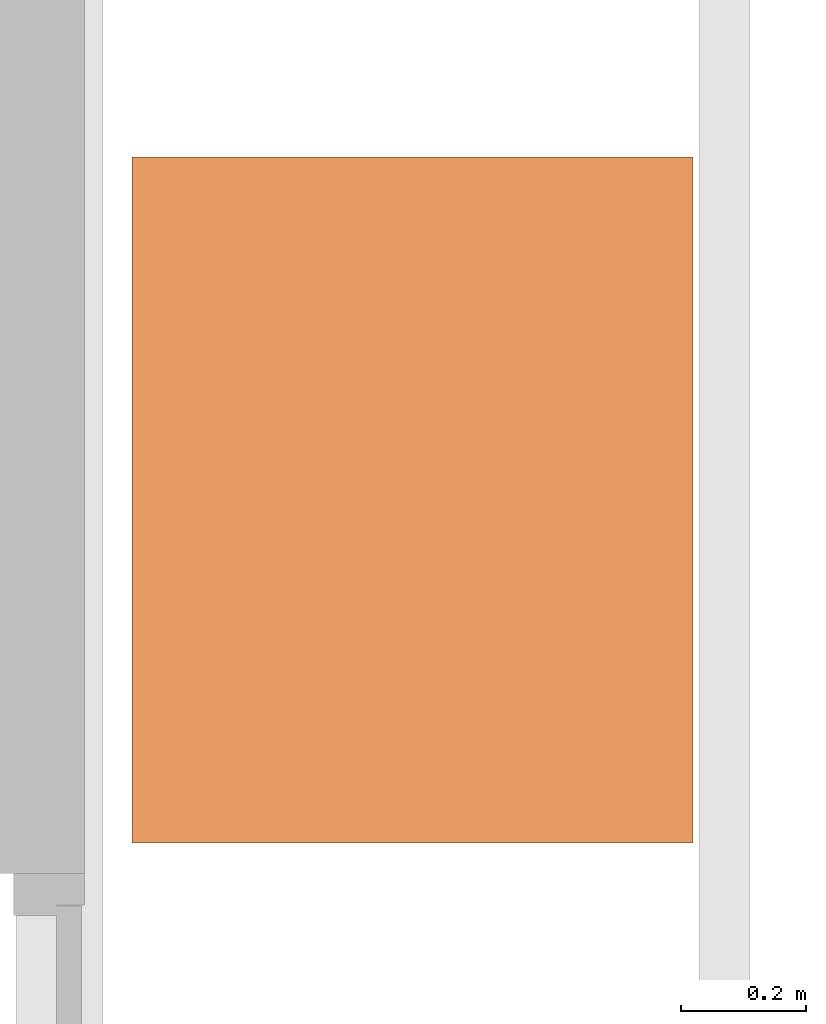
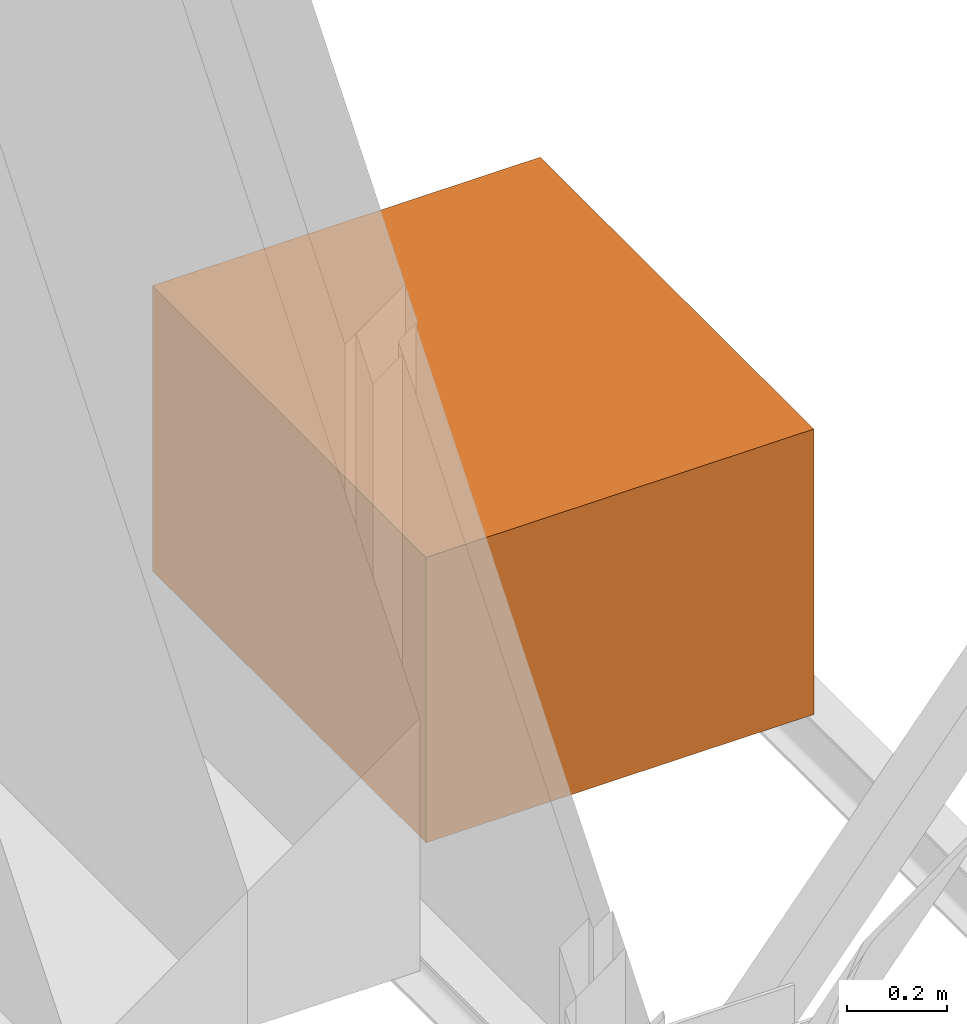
# One storey, part 8 of 8: 1 proxy.
"""IFC2X3 building model written with IfcOpenShell, lengths in millimetres."""

import ifcopenshell
import ifcopenshell.guid

model = None  # the IFC model being written
_history = None  # IfcOwnerHistory: only IFC2X3 demands one
_inside = {}  # id of a spatial element -> (the spatial element, [elements in it])
_under = {}  # id of a project, library or spatial element -> (it, [spatial elements below it])
_declared = {}  # id of a project -> (the project, [libraries it declares])
_typed = {}  # id of a type object -> (the type object, [elements of that type])
_made_of = {}  # id of a material, layer set ... -> (it, [elements and type objects made of it])


def new_model(schema):
    """Start an empty IFC model of exactly this schema.

    Asked for "IFC4X3", IfcOpenShell would pick the latest addendum, in which some entities
    have other attributes; the version numbers below select the first issue.
    IFC2X3 requires an IfcOwnerHistory on every rooted entity: one is made here for all.
    """
    global model, _history
    if schema == "IFC4X3":
        model = ifcopenshell.file(schema_version=(4, 3, 0, 0))
    else:
        model = ifcopenshell.file(schema=schema)
    _inside.clear()
    _under.clear()
    _declared.clear()
    _typed.clear()
    _made_of.clear()
    _history = None
    if model.schema == "IFC2X3":
        org = make("IfcOrganization", Name="unknown")
        user = make(
            "IfcPersonAndOrganization",
            ThePerson=make("IfcPerson", FamilyName="unknown"),
            TheOrganization=org,
        )
        app = make(
            "IfcApplication",
            ApplicationDeveloper=org,
            Version="unknown",
            ApplicationFullName="unknown",
            ApplicationIdentifier="unknown",
        )
        _history = make(
            "IfcOwnerHistory",
            OwningUser=user,
            OwningApplication=app,
            ChangeAction="ADDED",
            CreationDate=0,
        )
    return model


def make(cls, **values):
    """One entity of the class cls with the attributes given. An attribute that is None is left unset."""
    return model.create_entity(
        cls, **{name: value for name, value in values.items() if value is not None}
    )


def entity(cls, *values):
    """Any entity or typed value of the class cls, its attributes in the order of the schema. None: left unset."""
    e = model.create_entity(cls)
    for i, value in enumerate(values):
        if value is not None:
            e[i] = value
    return e


def rooted(cls, **values):
    """An entity with a GlobalId (a new one), such as an element, a storey or a relation."""
    return make(cls, GlobalId=ifcopenshell.guid.new(), OwnerHistory=_history, **values)


def si_unit(unit_type, name, prefix=None):
    """IfcSIUnit, for example si_unit("LENGTHUNIT", "METRE", prefix="MILLI")."""
    return make("IfcSIUnit", UnitType=unit_type, Prefix=prefix, Name=name)


def converted_unit(unit_type, name, factor, base, dimensions=None, offset=None):
    """IfcConversionBasedUnit, such as the inch: factor (a typed value) times the base unit."""
    return make(
        "IfcConversionBasedUnit"
        if offset is None
        else "IfcConversionBasedUnitWithOffset",
        ConversionOffset=offset,
        Dimensions=None
        if dimensions is None
        else entity("IfcDimensionalExponents", *dimensions),
        UnitType=unit_type,
        Name=name,
        ConversionFactor=make(
            "IfcMeasureWithUnit", ValueComponent=factor, UnitComponent=base
        ),
    )


def assignment(units):
    """IfcUnitAssignment: the units of a project."""
    return None if units is None else make("IfcUnitAssignment", Units=units)


def point(xyz):
    """IfcCartesianPoint."""
    return None if xyz is None else make("IfcCartesianPoint", Coordinates=xyz)


def direction(xyz):
    """IfcDirection."""
    return None if xyz is None else make("IfcDirection", DirectionRatios=xyz)


def frame(location, z_axis=None, x_axis=None):
    """IfcAxis2Placement3D, a coordinate frame: its origin and axes. An axis left out is left unset."""
    return make(
        "IfcAxis2Placement3D",
        Location=point(location),
        Axis=direction(z_axis),
        RefDirection=direction(x_axis),
    )


def frame_2d(location, x_axis=None):
    """IfcAxis2Placement2D, a coordinate frame in the plane: its origin and x axis."""
    return make(
        "IfcAxis2Placement2D", Location=point(location), RefDirection=direction(x_axis)
    )


def origin():
    """The frame at (0, 0, 0) with its axes left unset."""
    return frame((0.0, 0.0, 0.0))


def origin_2d_with_axis():
    """The frame at (0, 0) in the plane with the x axis (1, 0) written out."""
    return frame_2d((0.0, 0.0), x_axis=(1.0, 0.0))


def place(relative_to, where):
    """IfcLocalPlacement: puts the frame where relative to a parent placement (None: the world)."""
    return make(
        "IfcLocalPlacement", PlacementRelTo=relative_to, RelativePlacement=where
    )


def context(
    kind, dimensions, precision=None, world=None, true_north=None, identifier=None
):
    """IfcGeometricRepresentationContext, for example the 3D "Model" context."""
    return make(
        "IfcGeometricRepresentationContext",
        ContextIdentifier=identifier,
        ContextType=kind,
        CoordinateSpaceDimension=dimensions,
        Precision=precision,
        WorldCoordinateSystem=world,
        TrueNorth=true_north,
    )


def subcontext(parent, identifier, kind, view, scale=None):
    """IfcGeometricRepresentationSubContext, for example "Body" below "Model"."""
    return make(
        "IfcGeometricRepresentationSubContext",
        ContextIdentifier=identifier,
        ContextType=kind,
        ParentContext=parent,
        TargetScale=scale,
        TargetView=view,
    )


def project(units=None, contexts=None):
    """IfcProject with its units and contexts."""
    return rooted(
        "IfcProject",
        Name="project",
        RepresentationContexts=contexts,
        UnitsInContext=assignment(units),
    )


def spatial(cls, under=None, at=None, **own):
    """A site, building, storey or space (cls), placed at a placement, below another one or the project."""
    s = rooted(cls, ObjectPlacement=at, **own)
    if under is not None:
        _under.setdefault(under.id(), (under, []))[1].append(s)
    return s


def profile(cls, at=None, kind="AREA", **sizes):
    """A parametric profile (cls). Its sizes go by their IFC names, for example OverallWidth=200.0."""
    return make(cls, ProfileType=kind, Position=at, **sizes)


def rectangle(**sizes):
    """IfcRectangleProfileDef."""
    return profile("IfcRectangleProfileDef", **sizes)


def extrude(swept, where, along, depth):
    """IfcExtrudedAreaSolid: the profile swept, set in the frame where, extruded along a direction by depth."""
    return make(
        "IfcExtrudedAreaSolid",
        SweptArea=swept,
        Position=where,
        ExtrudedDirection=direction(along),
        Depth=depth,
    )


def shape(context_of_items, identifier, shape_type, items):
    """IfcShapeRepresentation: the items that make up one representation, for example the "Body"."""
    return make(
        "IfcShapeRepresentation",
        ContextOfItems=context_of_items,
        RepresentationIdentifier=identifier,
        RepresentationType=shape_type,
        Items=items,
    )


def source(mapping_origin, context_of_items, identifier, shape_type, items):
    """IfcRepresentationMap: a shape defined once, which mapped items show again and again."""
    return make(
        "IfcRepresentationMap",
        MappingOrigin=mapping_origin,
        MappedRepresentation=shape(context_of_items, identifier, shape_type, items),
    )


def transform(
    local_origin,
    x_axis=None,
    y_axis=None,
    z_axis=None,
    scale=None,
    scale2=None,
    scale3=None,
    uniform=True,
):
    """IfcCartesianTransformationOperator3D, or its non-uniform kind. x_axis, y_axis, z_axis: its Axis1, 2, 3."""
    if uniform:
        return make(
            "IfcCartesianTransformationOperator3D",
            Axis1=direction(x_axis),
            Axis2=direction(y_axis),
            LocalOrigin=point(local_origin),
            Scale=scale,
            Axis3=direction(z_axis),
        )
    return make(
        "IfcCartesianTransformationOperator3DnonUniform",
        Axis1=direction(x_axis),
        Axis2=direction(y_axis),
        LocalOrigin=point(local_origin),
        Scale=scale,
        Axis3=direction(z_axis),
        Scale2=scale2,
        Scale3=scale3,
    )


def mapped(mapping_source, mapping_target):
    """IfcMappedItem: shows the shape of a source again, moved by a transform."""
    return make(
        "IfcMappedItem", MappingSource=mapping_source, MappingTarget=mapping_target
    )


def material(Name=None, Category=None):
    """IfcMaterial."""
    return make("IfcMaterial", Name=Name, Category=Category)


def made_of(thing, what):
    """Note that an element or type object is made of a material, layer set ...; save() writes the relation."""
    if what is not None:
        _made_of.setdefault(what.id(), (what, []))[1].append(thing)
    return thing


def type_object(cls, material=None, **own):
    """A type object (cls), such as IfcWallType, which elements share."""
    return made_of(rooted(cls, **own), material)


def type_shapes(of_type, sources):
    """Give a type object the sources (RepresentationMaps) that its elements show as mapped items."""
    of_type.RepresentationMaps = sources


def element(
    cls,
    number,
    at=None,
    inside=None,
    cuts=None,
    type_object=None,
    material=None,
    context=None,
    identifier="Body",
    shape_type=None,
    held_by="IfcProductDefinitionShape",
    body=None,
    shapes=None,
    **own,
):
    """One element of the class cls, such as IfcWall. Its Tag is "e" and its number.

    at: its placement. inside: the storey or other place that contains it. cuts: it is an
    opening in that element (IfcRelVoidsElement). A single representation is given by context,
    identifier, shape_type and body (its items); several are given by shapes. held_by: the class
    of the entity that holds the representations. save() writes the other relations.
    """
    e = rooted(cls, Tag="e%d" % number, ObjectPlacement=at, **own)
    if body is not None:
        shapes = [shape(context, identifier, shape_type, body)]
    if shapes is not None:
        e.Representation = make(held_by, Representations=shapes)
    if inside is not None:
        _inside.setdefault(inside.id(), (inside, []))[1].append(e)
    if cuts is not None:
        rooted(
            "IfcRelVoidsElement", RelatingBuildingElement=cuts, RelatedOpeningElement=e
        )
    if type_object is not None:
        _typed.setdefault(type_object.id(), (type_object, []))[1].append(e)
    return made_of(e, material)


def aggregate(whole, parts):
    """IfcRelAggregates: a whole, such as a stair, and the parts it consists of."""
    return rooted("IfcRelAggregates", RelatingObject=whole, RelatedObjects=parts)


def save(model, path):
    """Write the relations noted so far, then the file.

    IfcRelAggregates (storeys below a building ...), IfcRelContainedInSpatialStructure (elements
    in a storey), IfcRelDefinesByType, IfcRelAssociatesMaterial and IfcRelDeclares: one each for
    every whole, place, type object, material and project.
    """
    for whole, parts in _under.values():
        aggregate(whole, parts)
    for where, things in _inside.values():
        rooted(
            "IfcRelContainedInSpatialStructure",
            RelatedElements=things,
            RelatingStructure=where,
        )
    for kind, things in _typed.values():
        rooted("IfcRelDefinesByType", RelatedObjects=things, RelatingType=kind)
    for what, things in _made_of.values():
        rooted("IfcRelAssociatesMaterial", RelatedObjects=things, RelatingMaterial=what)
    for by, libraries in _declared.values():
        rooted("IfcRelDeclares", RelatingContext=by, RelatedDefinitions=libraries)
    model.write(path)


model = new_model("IFC2X3")

# Units and contexts
model_context = context("Model", 3, precision=0.01, world=origin(), true_north=direction((6.123233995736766e-17, 1.0)))
body_context = subcontext(model_context, "Body", "Model", "MODEL_VIEW")
ifc_project = project(units=[si_unit("LENGTHUNIT", "METRE", prefix="MILLI"), si_unit("AREAUNIT", "SQUARE_METRE"), converted_unit("PLANEANGLEUNIT", "DEGREE", entity("IfcPlaneAngleMeasure", 0.017453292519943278), si_unit("PLANEANGLEUNIT", "RADIAN"), dimensions=[0, 0, 0, 0, 0, 0, 0])], contexts=[model_context])

# Site, building, storey
site_placement = place(None, origin())
site = spatial("IfcSite", under=ifc_project, at=site_placement, Name="Default", CompositionType="ELEMENT")
building_placement = place(site_placement, origin())
building = spatial("IfcBuilding", under=site, at=building_placement, CompositionType="ELEMENT")
storey_placement = place(building_placement, frame((0.0, 0.0, 30550.0)))
storey = spatial("IfcBuildingStorey", under=building, at=storey_placement, Name="Rollenzolder", CompositionType="ELEMENT", Elevation=30550.000000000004)

# Proxy
ifc_material = material(Name="Staal-PBRI")
building_element_proxy_type = type_object("IfcBuildingElementProxyType", Name="Lier bestaand:Lier portaalbrug", PredefinedType="NOTDEFINED", material=ifc_material)
shared_shape = source(origin(), body_context, "Body", "SweptSolid", [
    extrude(rectangle(XDim=900.0000000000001, YDim=1100.0, at=origin_2d_with_axis()), frame((0.0, -550.0, 0.0), z_axis=(0.0, 0.0, 1.0), x_axis=(-1.0, 0.0, 0.0)), (0.0, 0.0, 1.0), 700.0),
])
type_shapes(building_element_proxy_type, [shared_shape])
proxy_placement = place(storey_placement, frame((23103.411598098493, 38431.16790690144, 0.0)))
element("IfcBuildingElementProxy", 1, at=proxy_placement, inside=storey, type_object=building_element_proxy_type, material=ifc_material, Name="Lier bestaand:Lier portaalbrug", ObjectType="Lier bestaand:Lier portaalbrug", context=body_context, shape_type="MappedRepresentation", body=[
    mapped(shared_shape, transform((0.0, 0.0, 0.0), scale=1.0)),
])

save(model, "model.ifc")
